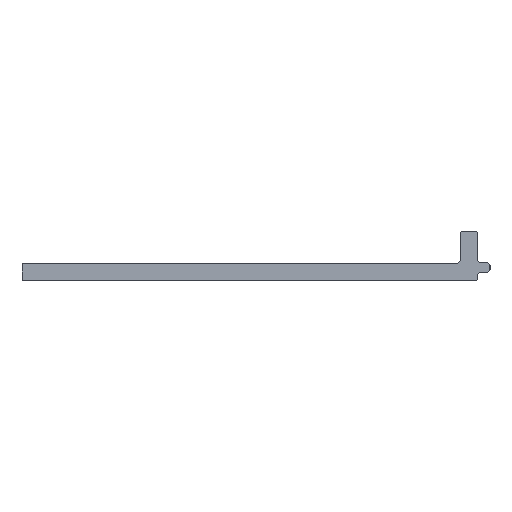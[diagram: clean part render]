
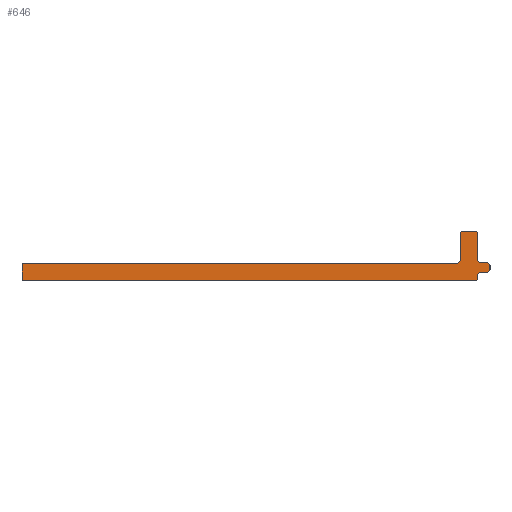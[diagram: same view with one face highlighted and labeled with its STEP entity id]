
A CAD part, left-side view. The second image highlights one B-rep face of the part: STEP entity #646.
In plain terms, the highlighted planar face has unit normal (-1, 0, 0).
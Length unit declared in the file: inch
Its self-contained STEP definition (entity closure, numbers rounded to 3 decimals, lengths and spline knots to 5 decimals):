
#155=DIRECTION('',(0.,1.,0.));
#156=VECTOR('',#155,2.985);
#157=CARTESIAN_POINT('',(-48.,0.015,0.));
#158=LINE('',#157,#156);
#159=CARTESIAN_POINT('',(-48.,3.,0.01));
#160=DIRECTION('',(1.,0.,0.));
#161=DIRECTION('',(0.,0.,-1.));
#162=AXIS2_PLACEMENT_3D('',#159,#160,#161);
#164=DIRECTION('',(0.,0.,1.));
#165=VECTOR('',#164,0.098);
#166=CARTESIAN_POINT('',(-48.,3.01,0.01));
#167=LINE('',#166,#165);
#168=CARTESIAN_POINT('',(-48.,3.,0.108));
#169=DIRECTION('',(1.,0.,0.));
#170=DIRECTION('',(0.,1.,0.));
#171=AXIS2_PLACEMENT_3D('',#168,#169,#170);
#173=DIRECTION('',(0.,-1.,0.));
#174=VECTOR('',#173,2.867);
#175=CARTESIAN_POINT('',(-48.,3.,0.118));
#176=LINE('',#175,#174);
#177=CARTESIAN_POINT('',(-48.,0.133,0.133));
#178=DIRECTION('',(-1.,0.,0.));
#179=DIRECTION('',(0.,0.,-1.));
#180=AXIS2_PLACEMENT_3D('',#177,#178,#179);
#182=DIRECTION('',(0.,0.,1.));
#183=VECTOR('',#182,0.182);
#184=CARTESIAN_POINT('',(-48.,0.118,0.133));
#185=LINE('',#184,#183);
#186=CARTESIAN_POINT('',(-48.,0.103,0.315));
#187=DIRECTION('',(1.,0.,0.));
#188=DIRECTION('',(0.,1.,0.));
#189=AXIS2_PLACEMENT_3D('',#186,#187,#188);
#191=DIRECTION('',(0.,-1.,0.));
#192=VECTOR('',#191,0.088);
#193=CARTESIAN_POINT('',(-48.,0.103,0.33));
#194=LINE('',#193,#192);
#195=CARTESIAN_POINT('',(-48.,0.015,0.315));
#196=DIRECTION('',(1.,0.,0.));
#197=DIRECTION('',(0.,0.,1.));
#198=AXIS2_PLACEMENT_3D('',#195,#196,#197);
#200=DIRECTION('',(0.,0.,-1.));
#201=VECTOR('',#200,0.181);
#202=CARTESIAN_POINT('',(-48.,0.,0.315));
#203=LINE('',#202,#201);
#204=CARTESIAN_POINT('',(-48.,-0.015,0.134));
#205=DIRECTION('',(-1.,0.,0.));
#206=DIRECTION('',(0.,1.,0.));
#207=AXIS2_PLACEMENT_3D('',#204,#205,#206);
#209=DIRECTION('',(0.,-1.,0.));
#210=VECTOR('',#209,0.05);
#211=CARTESIAN_POINT('',(-48.,-0.015,0.119));
#212=LINE('',#211,#210);
#213=CARTESIAN_POINT('',(-48.,-0.065,0.104));
#214=DIRECTION('',(1.,0.,0.));
#215=DIRECTION('',(0.,0.,1.));
#216=AXIS2_PLACEMENT_3D('',#213,#214,#215);
#218=DIRECTION('',(0.,0.,-1.));
#219=VECTOR('',#218,0.03);
#220=CARTESIAN_POINT('',(-48.,-0.08,0.104));
#221=LINE('',#220,#219);
#222=CARTESIAN_POINT('',(-48.,-0.065,0.074));
#223=DIRECTION('',(1.,0.,0.));
#224=DIRECTION('',(0.,-1.,0.));
#225=AXIS2_PLACEMENT_3D('',#222,#223,#224);
#227=DIRECTION('',(0.,1.,0.));
#228=VECTOR('',#227,0.05);
#229=CARTESIAN_POINT('',(-48.,-0.065,0.059));
#230=LINE('',#229,#228);
#231=CARTESIAN_POINT('',(-48.,-0.015,0.044));
#232=DIRECTION('',(-1.,0.,0.));
#233=DIRECTION('',(0.,0.,1.));
#234=AXIS2_PLACEMENT_3D('',#231,#232,#233);
#236=DIRECTION('',(0.,0.,-1.));
#237=VECTOR('',#236,0.029);
#238=CARTESIAN_POINT('',(-48.,0.,0.044));
#239=LINE('',#238,#237);
#240=CARTESIAN_POINT('',(-48.,0.015,0.015));
#241=DIRECTION('',(1.,0.,0.));
#242=DIRECTION('',(0.,-1.,0.));
#243=AXIS2_PLACEMENT_3D('',#240,#241,#242);
#261=CARTESIAN_POINT('',(-48.,0.118,0.315));
#262=CARTESIAN_POINT('',(-48.,0.103,0.33));
#263=VERTEX_POINT('',#261);
#264=VERTEX_POINT('',#262);
#265=CARTESIAN_POINT('',(-48.,0.015,0.33));
#266=VERTEX_POINT('',#265);
#267=CARTESIAN_POINT('',(-48.,0.,0.315));
#268=VERTEX_POINT('',#267);
#269=CARTESIAN_POINT('',(-48.,0.,0.134));
#270=VERTEX_POINT('',#269);
#271=CARTESIAN_POINT('',(-48.,-0.015,0.119));
#272=VERTEX_POINT('',#271);
#273=CARTESIAN_POINT('',(-48.,-0.065,0.119));
#274=VERTEX_POINT('',#273);
#275=CARTESIAN_POINT('',(-48.,-0.08,0.104));
#276=VERTEX_POINT('',#275);
#277=CARTESIAN_POINT('',(-48.,-0.08,0.074));
#278=VERTEX_POINT('',#277);
#279=CARTESIAN_POINT('',(-48.,-0.065,0.059));
#280=VERTEX_POINT('',#279);
#281=CARTESIAN_POINT('',(-48.,-0.015,0.059));
#282=VERTEX_POINT('',#281);
#283=CARTESIAN_POINT('',(-48.,0.,0.044));
#284=VERTEX_POINT('',#283);
#285=CARTESIAN_POINT('',(-48.,0.,0.015));
#286=VERTEX_POINT('',#285);
#287=CARTESIAN_POINT('',(-48.,0.015,0.));
#288=VERTEX_POINT('',#287);
#289=CARTESIAN_POINT('',(-48.,0.133,0.118));
#290=CARTESIAN_POINT('',(-48.,0.118,0.133));
#291=VERTEX_POINT('',#289);
#292=VERTEX_POINT('',#290);
#333=CARTESIAN_POINT('',(-48.,3.,0.));
#334=CARTESIAN_POINT('',(-48.,3.01,0.01));
#335=VERTEX_POINT('',#333);
#336=VERTEX_POINT('',#334);
#337=CARTESIAN_POINT('',(-48.,3.01,0.108));
#338=VERTEX_POINT('',#337);
#339=CARTESIAN_POINT('',(-48.,3.,0.118));
#340=VERTEX_POINT('',#339);
#615=CARTESIAN_POINT('',(-48.,0.,0.));
#616=DIRECTION('',(1.,0.,0.));
#617=DIRECTION('',(0.,-1.,0.));
#618=AXIS2_PLACEMENT_3D('',#615,#616,#617);
#619=PLANE('',#618);
#620=ORIENTED_EDGE('',*,*,#561,.T.);
#622=ORIENTED_EDGE('',*,*,#621,.T.);
#624=ORIENTED_EDGE('',*,*,#623,.T.);
#626=ORIENTED_EDGE('',*,*,#625,.T.);
#627=ORIENTED_EDGE('',*,*,#605,.T.);
#629=ORIENTED_EDGE('',*,*,#628,.T.);
#630=ORIENTED_EDGE('',*,*,#348,.T.);
#631=ORIENTED_EDGE('',*,*,#364,.T.);
#632=ORIENTED_EDGE('',*,*,#379,.T.);
#633=ORIENTED_EDGE('',*,*,#394,.T.);
#634=ORIENTED_EDGE('',*,*,#409,.T.);
#635=ORIENTED_EDGE('',*,*,#424,.T.);
#636=ORIENTED_EDGE('',*,*,#439,.T.);
#637=ORIENTED_EDGE('',*,*,#454,.T.);
#638=ORIENTED_EDGE('',*,*,#469,.T.);
#639=ORIENTED_EDGE('',*,*,#484,.T.);
#640=ORIENTED_EDGE('',*,*,#499,.T.);
#641=ORIENTED_EDGE('',*,*,#514,.T.);
#642=ORIENTED_EDGE('',*,*,#529,.T.);
#643=ORIENTED_EDGE('',*,*,#544,.T.);
#644=EDGE_LOOP('',(#620,#622,#624,#626,#627,#629,#630,#631,#632,#633,#634,#635,
#636,#637,#638,#639,#640,#641,#642,#643));
#645=FACE_OUTER_BOUND('',#644,.F.);
#163=CIRCLE('',#162,0.01);
#172=CIRCLE('',#171,0.01);
#181=CIRCLE('',#180,0.015);
#190=CIRCLE('',#189,0.015);
#199=CIRCLE('',#198,0.015);
#208=CIRCLE('',#207,0.015);
#217=CIRCLE('',#216,0.015);
#226=CIRCLE('',#225,0.015);
#235=CIRCLE('',#234,0.015);
#244=CIRCLE('',#243,0.015);
#348=EDGE_CURVE('',#292,#263,#185,.T.);
#364=EDGE_CURVE('',#263,#264,#190,.T.);
#379=EDGE_CURVE('',#264,#266,#194,.T.);
#394=EDGE_CURVE('',#266,#268,#199,.T.);
#409=EDGE_CURVE('',#268,#270,#203,.T.);
#424=EDGE_CURVE('',#270,#272,#208,.T.);
#439=EDGE_CURVE('',#272,#274,#212,.T.);
#454=EDGE_CURVE('',#274,#276,#217,.T.);
#469=EDGE_CURVE('',#276,#278,#221,.T.);
#484=EDGE_CURVE('',#278,#280,#226,.T.);
#499=EDGE_CURVE('',#280,#282,#230,.T.);
#514=EDGE_CURVE('',#282,#284,#235,.T.);
#529=EDGE_CURVE('',#284,#286,#239,.T.);
#544=EDGE_CURVE('',#286,#288,#244,.T.);
#561=EDGE_CURVE('',#288,#335,#158,.T.);
#605=EDGE_CURVE('',#340,#291,#176,.T.);
#621=EDGE_CURVE('',#335,#336,#163,.T.);
#623=EDGE_CURVE('',#336,#338,#167,.T.);
#625=EDGE_CURVE('',#338,#340,#172,.T.);
#628=EDGE_CURVE('',#291,#292,#181,.T.);
#646=ADVANCED_FACE('',(#645),#619,.F.);
